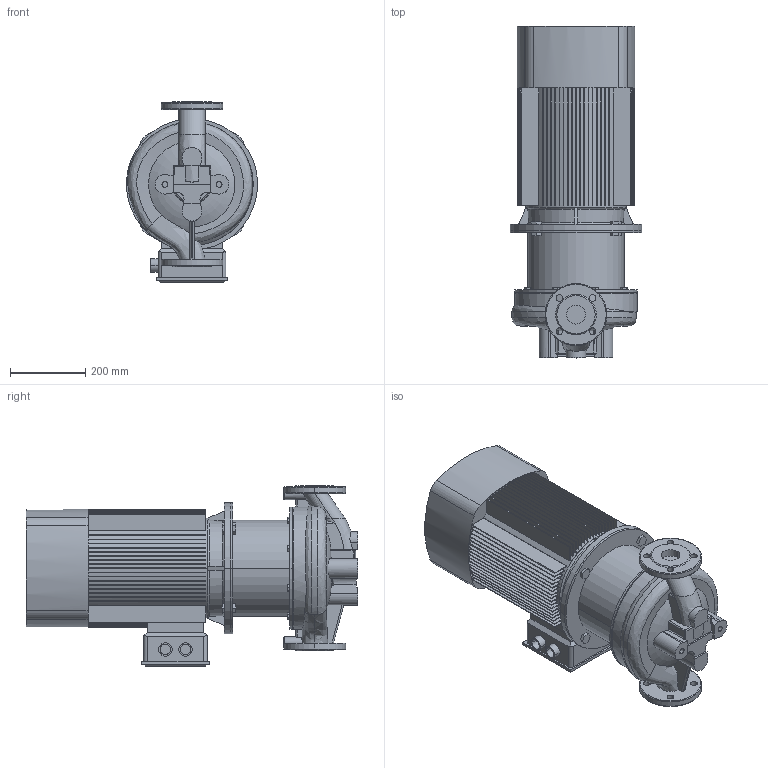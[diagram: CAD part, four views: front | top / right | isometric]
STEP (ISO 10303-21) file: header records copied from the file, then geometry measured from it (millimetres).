
FILE_DESCRIPTION (( 'STEP AP203' ), '1' );
FILE_NAME ('TD50-70G_2.STEP', '2022-04-28T10:41:11', ( '' ), ( '' ), 'SwSTEP 2.0', 'SolidWorks 2019', '' );
FILE_SCHEMA (( 'CONFIG_CONTROL_DESIGN' ));
Length unit declared in the file: millimetre
Products named in the file (4): TD50-70G_2; Pr_ch 50 - 50_60_70_81_TD50-70G_2; ED_B5_YE2-160L-2 (18.5); Fon_50_TD50-70G_2
Assembly tree (3 placements, depth 2):
  TD50-70G_2
    Pr_ch 50 - 50_60_70_81_TD50-70G_2
    Fon_50_TD50-70G_2
    ED_B5_YE2-160L-2 (18.5)
Bounding box: 350 x 884 x 481 mm (x, y, z)
Volume: 52139453.2 mm3; surface area: 2953238.7 mm2
Topology: 5 solids, 5 shells, 711 faces, 1956 edges, 1285 vertices
Faces by surface type: plane 497, cylinder 142, torus 29, bspline 24, cone 17, sphere 2
Entity records: 28174 total; most frequent: CARTESIAN_POINT 9422, ORIENTED_EDGE 3908, DIRECTION 3818, EDGE_CURVE 1954, AXIS2_PLACEMENT_3D 1330, VERTEX_POINT 1285, LINE 1158, VECTOR 1158
